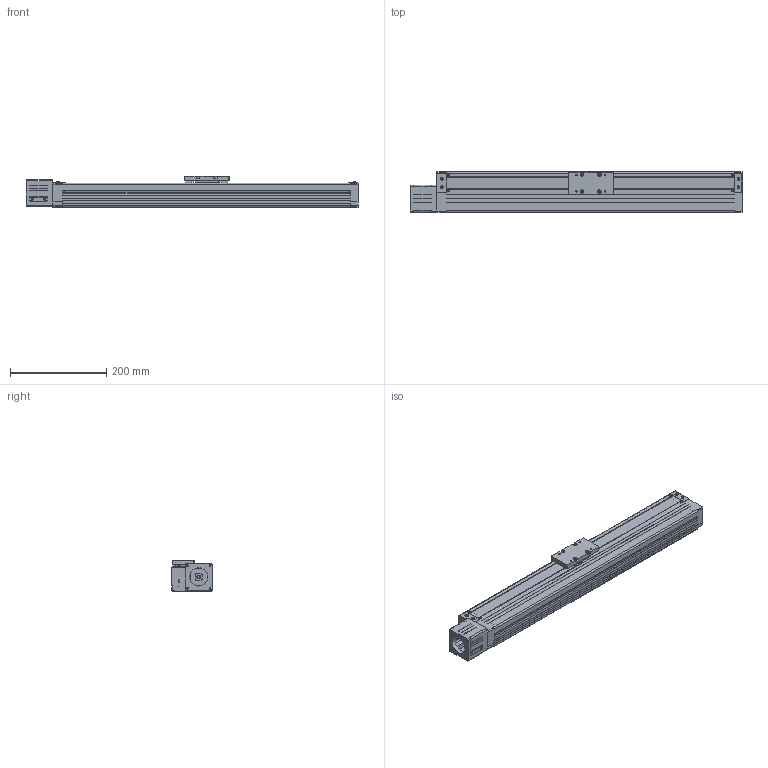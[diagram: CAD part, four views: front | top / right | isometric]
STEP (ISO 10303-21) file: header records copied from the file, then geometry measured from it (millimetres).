
FILE_DESCRIPTION((''),'2;1');
FILE_NAME('D:\製品 (図面)\カタログ用3D\SU部品\SU85×65\ダウンロード用\SU85×65-MB56\SU85×65-500-MB56.stp','2011-07-01T17:23:55',('Tsuchiya'),(''),'Autodesk Inventor 10','Autodesk Inventor 10','');
FILE_SCHEMA(('AUTOMOTIVE_DESIGN { 1 0 10303 214 1 1 1 1 }'));
Length unit declared in the file: millimetre
Products named in the file (3): SU85×65-500-MB56; SU85×65-500-MB561; SU85×65-500-MB562
Assembly tree (2 placements, depth 2):
  SU85×65-500-MB56
    SU85×65-500-MB561
    SU85×65-500-MB562
Bounding box: 691 x 85 x 65 mm (x, y, z)
Volume: 1264025.2 mm3; surface area: 435696.8 mm2
Topology: 8 solids, 8 shells, 847 faces, 2228 edges, 1442 vertices
Faces by surface type: plane 713, cylinder 102, cone 16, torus 12, bspline 4
Full cylindrical faces by diameter (mm): 3.242 x8, 4 x4, 4.134 x12, 4.5 x4, 5.5 x4, 6 x1, 7 x4, 8 x1, 11.5 x1, 12 x1, 13 x1, 38.1 x1, 43 x1
Entity records: 25878 total; most frequent: CARTESIAN_POINT 5195, ORIENTED_EDGE 4248, DIRECTION 4056, EDGE_CURVE 2124, VECTOR 1712, LINE 1712, VERTEX_POINT 1413, AXIS2_PLACEMENT_3D 1172
